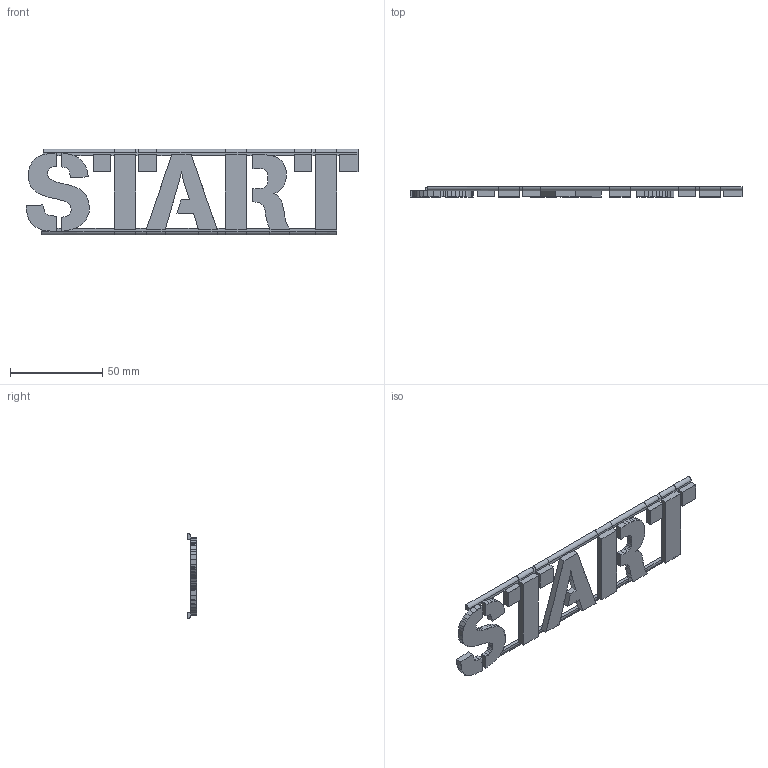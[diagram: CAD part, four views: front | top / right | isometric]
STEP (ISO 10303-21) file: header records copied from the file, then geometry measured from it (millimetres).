
FILE_DESCRIPTION(/* description */ ('STEP AP242','CAx-IF Rec.Pracs.---Representation and Presentation of Product Manufacturing Information (PMI)---4.0---2014-10-13','CAx-IF Rec.Pracs.---3D Tessellated Geometry---0.4---2014-09-14','2;1'),/* implementation_level */ '2;1');
FILE_NAME(/* name */ '68f50fcebfaeaadd2111d36b',/* time_stamp */ '2025-10-19T16:20:31Z',/* author */ (''),/* organization */ (''),/* preprocessor_version */ 'ST-DEVELOPER v20',/* originating_system */ 'ONSHAPE BY PTC INC, 1.205',/* authorisation */ ' ');
FILE_SCHEMA (('AP242_MANAGED_MODEL_BASED_3D_ENGINEERING_MIM_LF { 1 0 10303 442 1 1 4 }'));
Length unit declared in the file: metre
Products named in the file (1): Part 1
Bounding box: 180 x 5.4 x 46.47 mm (x, y, z)
Volume: 5414.3 mm3; surface area: 17264.4 mm2
Topology: 1 solids, 1 shells, 521 faces, 1490 edges, 961 vertices
Faces by surface type: plane 498, cylinder 23
Entity records: 16602 total; most frequent: CARTESIAN_POINT 3057, ORIENTED_EDGE 2980, DIRECTION 2519, EDGE_CURVE 1490, LINE 1463, VECTOR 1463, VERTEX_POINT 961, AXIS2_PLACEMENT_3D 528
